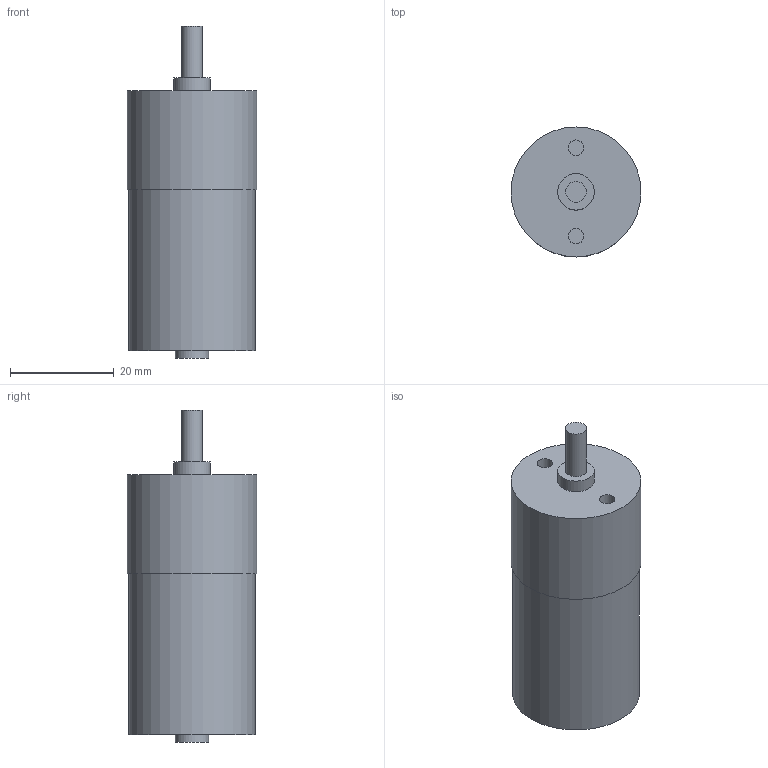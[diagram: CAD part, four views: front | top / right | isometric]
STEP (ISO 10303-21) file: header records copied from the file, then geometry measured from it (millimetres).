
FILE_DESCRIPTION(/* description */ (''),/* implementation_level */ '2;1');
FILE_NAME(/* name */ 'C:/Users/priba/Documents/Temp/mrm-bdc24-9.step',/* time_stamp */ '2020-04-08T12:26:59+02:00',/* author */ (''),/* organization */ (''),/* preprocessor_version */ 'ST-DEVELOPER v18',/* originating_system */ 'Autodesk Translation Framework v8.12.0.6',/* authorisation */ '');
FILE_SCHEMA (('AUTOMOTIVE_DESIGN { 1 0 10303 214 3 1 1 }'));
Length unit declared in the file: millimetre
Products named in the file (1): mrm-bdc24-9
Bounding box: 25 x 25 x 63.9 mm (x, y, z)
Volume: 24032.4 mm3; surface area: 5134.5 mm2
Topology: 1 solids, 1 shells, 15 faces, 31 edges, 24 vertices
Faces by surface type: plane 8, cylinder 7
Full cylindrical faces by diameter (mm): 3 x2, 4 x1, 6.4 x1, 7 x1, 24.4 x1, 25 x1
Entity records: 462 total; most frequent: DIRECTION 87, CARTESIAN_POINT 71, ORIENTED_EDGE 62, AXIS2_PLACEMENT_3D 40, EDGE_CURVE 31, CIRCLE 24, VERTEX_POINT 24, EDGE_LOOP 21
